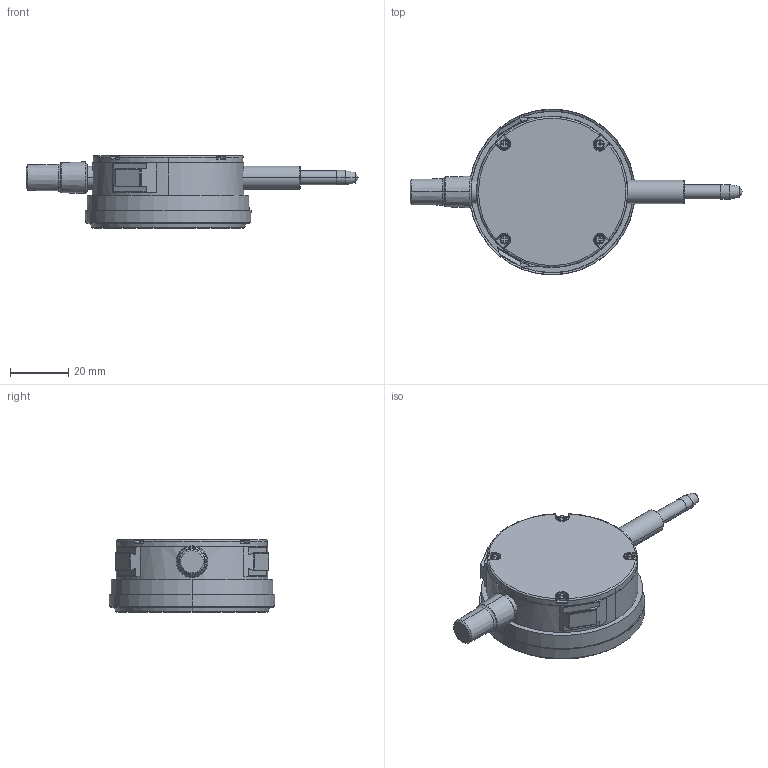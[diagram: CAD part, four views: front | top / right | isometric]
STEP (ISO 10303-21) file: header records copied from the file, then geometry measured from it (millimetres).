
FILE_DESCRIPTION(('Creo Elements/Direct Modeling STEP Export'),'2;1');
FILE_NAME('2928SB.stp','2020-03-23T10:54:10',(''),(''),'Creo Elements/Direct Modeling STEP processor for AP214 (Solid Model)','Creo Elements/Direct Modeling 18.1I 13-Aug-2016 (C) Parametric Technology GmbH','');
FILE_SCHEMA(('AUTOMOTIVE_DESIGN { 1 0 10303 214 1 1 1 1 }'));
Length unit declared in the file: millimetre
Products named in the file (2): 2928SB
Assembly tree (1 placements, depth 2):
  2928SB
    2928SB
Bounding box: 114 x 56.99 x 25.03 mm (x, y, z)
Volume: 59702.5 mm3; surface area: 11018.2 mm2
Topology: 1 solids, 1 shells, 278 faces, 674 edges, 415 vertices
Faces by surface type: plane 115, cylinder 67, bspline 32, cone 32, torus 30, sphere 2
Entity records: 13037 total; most frequent: CARTESIAN_POINT 6967, ORIENTED_EDGE 1344, DIRECTION 1138, EDGE_CURVE 672, VERTEX_POINT 415, AXIS2_PLACEMENT_3D 398, VECTOR 342, LINE 342
